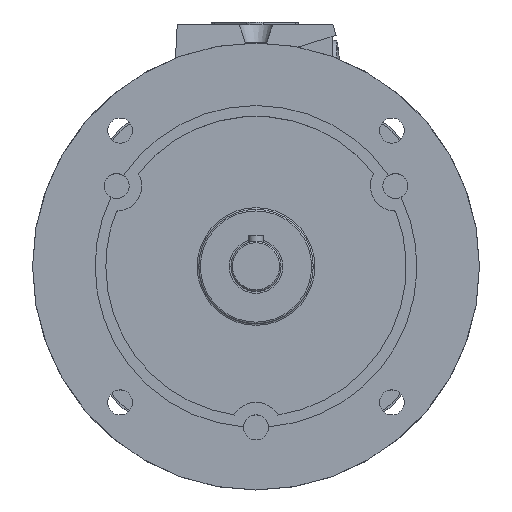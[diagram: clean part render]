
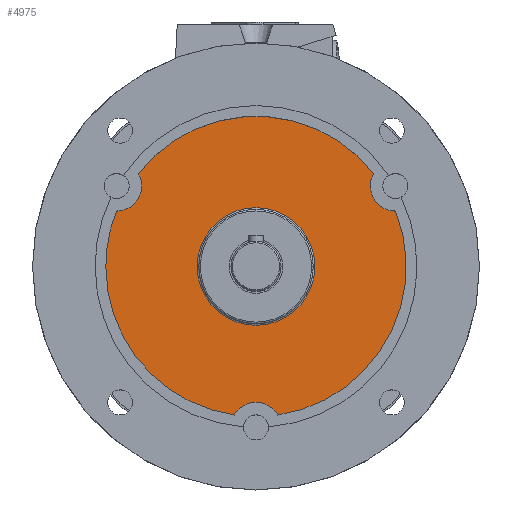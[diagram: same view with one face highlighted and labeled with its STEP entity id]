
A CAD part, top view. The second image highlights one B-rep face of the part: STEP entity #4975.
In plain terms, the highlighted planar face has unit normal (0, 0, 1).
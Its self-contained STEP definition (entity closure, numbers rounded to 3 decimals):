
#280 = CARTESIAN_POINT ( 'NONE',  ( -84., 0., 28. ) ) ;
#460 = EDGE_LOOP ( 'NONE', ( #1964, #12029, #8945, #7275, #4760, #16843, #5315, #2793 ) ) ;
#508 = DIRECTION ( 'NONE',  ( 0., 0., -1. ) ) ;
#841 = DIRECTION ( 'NONE',  ( 1., 0., 0. ) ) ;
#1267 = CIRCLE ( 'NONE', #10083, 84. ) ;
#1543 = DIRECTION ( 'NONE',  ( 0., 0., -1. ) ) ;
#1653 = DIRECTION ( 'NONE',  ( 0., 0., -1. ) ) ;
#1844 = ORIENTED_EDGE ( 'NONE', *, *, #6137, .T. ) ;
#1895 = CIRCLE ( 'NONE', #11803, 14. ) ;
#1964 = ORIENTED_EDGE ( 'NONE', *, *, #5064, .T. ) ;
#2139 = CARTESIAN_POINT ( 'NONE',  ( 0., 0., 28. ) ) ;
#2152 = CIRCLE ( 'NONE', #13998, 32.9 ) ;
#2254 = CARTESIAN_POINT ( 'NONE',  ( 0., 0., 28. ) ) ;
#2415 = EDGE_CURVE ( 'NONE', #3518, #8804, #1267, .T. ) ;
#2750 = DIRECTION ( 'NONE',  ( -1., 0., 0. ) ) ;
#2793 = ORIENTED_EDGE ( 'NONE', *, *, #15297, .F. ) ;
#3072 = EDGE_CURVE ( 'NONE', #5960, #8085, #3177, .T. ) ;
#3132 = EDGE_CURVE ( 'NONE', #11228, #13751, #6762, .T. ) ;
#3177 = CIRCLE ( 'NONE', #11172, 14. ) ;
#3518 = VERTEX_POINT ( 'NONE', #8321 ) ;
#3630 = DIRECTION ( 'NONE',  ( 0., 0., -1. ) ) ;
#4066 = CARTESIAN_POINT ( 'NONE',  ( -77.942, 45., 28. ) ) ;
#4094 = CARTESIAN_POINT ( 'NONE',  ( 0., 0., 28. ) ) ;
#4276 = CARTESIAN_POINT ( 'NONE',  ( 78.07, 31.001, 28. ) ) ;
#4522 = EDGE_CURVE ( 'NONE', #8747, #4529, #7876, .T. ) ;
#4529 = VERTEX_POINT ( 'NONE', #8488 ) ;
#4760 = ORIENTED_EDGE ( 'NONE', *, *, #12784, .F. ) ;
#4804 = CARTESIAN_POINT ( 'NONE',  ( 0., -90., 28. ) ) ;
#4975 = ADVANCED_FACE ( 'NONE', ( #6797, #12160 ), #13625, .T. ) ;
#5064 = EDGE_CURVE ( 'NONE', #13933, #8804, #15875, .T. ) ;
#5156 = CARTESIAN_POINT ( 'NONE',  ( 0., 0., 28. ) ) ;
#5315 = ORIENTED_EDGE ( 'NONE', *, *, #13698, .T. ) ;
#5930 = DIRECTION ( 'NONE',  ( -1., 0., 0. ) ) ;
#5943 = AXIS2_PLACEMENT_3D ( 'NONE', #4094, #8064, #8149 ) ;
#5960 = VERTEX_POINT ( 'NONE', #8639 ) ;
#6092 = DIRECTION ( 'NONE',  ( 0., 0., -1. ) ) ;
#6137 = EDGE_CURVE ( 'NONE', #4529, #8747, #2152, .T. ) ;
#6691 = CIRCLE ( 'NONE', #16342, 14. ) ;
#6762 = CIRCLE ( 'NONE', #15589, 84. ) ;
#6768 = AXIS2_PLACEMENT_3D ( 'NONE', #16128, #13548, #14915 ) ;
#6797 = FACE_OUTER_BOUND ( 'NONE', #460, .T. ) ;
#6826 = CARTESIAN_POINT ( 'NONE',  ( 12.188, -83.111, 28. ) ) ;
#7275 = ORIENTED_EDGE ( 'NONE', *, *, #3072, .T. ) ;
#7876 = CIRCLE ( 'NONE', #5943, 32.9 ) ;
#7917 = AXIS2_PLACEMENT_3D ( 'NONE', #2139, #6092, #12413 ) ;
#8064 = DIRECTION ( 'NONE',  ( 0., 0., -1. ) ) ;
#8085 = VERTEX_POINT ( 'NONE', #16107 ) ;
#8149 = DIRECTION ( 'NONE',  ( -1., 0., 0. ) ) ;
#8321 = CARTESIAN_POINT ( 'NONE',  ( -65.882, 52.111, 28. ) ) ;
#8488 = CARTESIAN_POINT ( 'NONE',  ( 32.9, 0., 28. ) ) ;
#8591 = DIRECTION ( 'NONE',  ( 0., 0., -1. ) ) ;
#8639 = CARTESIAN_POINT ( 'NONE',  ( -63.942, 45., 28. ) ) ;
#8747 = VERTEX_POINT ( 'NONE', #10197 ) ;
#8804 = VERTEX_POINT ( 'NONE', #10694 ) ;
#8945 = ORIENTED_EDGE ( 'NONE', *, *, #16159, .T. ) ;
#8967 = CARTESIAN_POINT ( 'NONE',  ( -77.942, 45., 28. ) ) ;
#9387 = DIRECTION ( 'NONE',  ( 1., 0., 0. ) ) ;
#10083 = AXIS2_PLACEMENT_3D ( 'NONE', #17039, #8591, #16948 ) ;
#10197 = CARTESIAN_POINT ( 'NONE',  ( -32.9, 0., 28. ) ) ;
#10694 = CARTESIAN_POINT ( 'NONE',  ( 65.882, 52.111, 28. ) ) ;
#10956 = CIRCLE ( 'NONE', #7917, 84. ) ;
#11172 = AXIS2_PLACEMENT_3D ( 'NONE', #8967, #16654, #14247 ) ;
#11228 = VERTEX_POINT ( 'NONE', #16067 ) ;
#11803 = AXIS2_PLACEMENT_3D ( 'NONE', #4804, #1653, #841 ) ;
#12023 = DIRECTION ( 'NONE',  ( 0., 0., -1. ) ) ;
#12029 = ORIENTED_EDGE ( 'NONE', *, *, #2415, .F. ) ;
#12160 = FACE_BOUND ( 'NONE', #14913, .T. ) ;
#12398 = AXIS2_PLACEMENT_3D ( 'NONE', #13812, #508, #5930 ) ;
#12406 = CARTESIAN_POINT ( 'NONE',  ( 0., 84., 28. ) ) ;
#12413 = DIRECTION ( 'NONE',  ( -1., 0., 0. ) ) ;
#12784 = EDGE_CURVE ( 'NONE', #13751, #8085, #10956, .T. ) ;
#13543 = ORIENTED_EDGE ( 'NONE', *, *, #4522, .T. ) ;
#13548 = DIRECTION ( 'NONE',  ( 0., 0., -1. ) ) ;
#13625 = PLANE ( 'NONE',  #14501 ) ;
#13698 = EDGE_CURVE ( 'NONE', #11228, #14594, #1895, .T. ) ;
#13751 = VERTEX_POINT ( 'NONE', #280 ) ;
#13812 = CARTESIAN_POINT ( 'NONE',  ( 0., 0., 28. ) ) ;
#13933 = VERTEX_POINT ( 'NONE', #4276 ) ;
#13998 = AXIS2_PLACEMENT_3D ( 'NONE', #2254, #3630, #15464 ) ;
#14247 = DIRECTION ( 'NONE',  ( 1., 0., 0. ) ) ;
#14501 = AXIS2_PLACEMENT_3D ( 'NONE', #12406, #14829, #9387 ) ;
#14594 = VERTEX_POINT ( 'NONE', #6826 ) ;
#14829 = DIRECTION ( 'NONE',  ( 0., 0., 1. ) ) ;
#14877 = CIRCLE ( 'NONE', #12398, 84. ) ;
#14913 = EDGE_LOOP ( 'NONE', ( #13543, #1844 ) ) ;
#14915 = DIRECTION ( 'NONE',  ( 1., 0., 0. ) ) ;
#15297 = EDGE_CURVE ( 'NONE', #13933, #14594, #14877, .T. ) ;
#15464 = DIRECTION ( 'NONE',  ( -1., 0., 0. ) ) ;
#15589 = AXIS2_PLACEMENT_3D ( 'NONE', #5156, #1543, #2750 ) ;
#15875 = CIRCLE ( 'NONE', #6768, 14. ) ;
#15995 = DIRECTION ( 'NONE',  ( 1., 0., 0. ) ) ;
#16067 = CARTESIAN_POINT ( 'NONE',  ( -12.188, -83.111, 28. ) ) ;
#16107 = CARTESIAN_POINT ( 'NONE',  ( -78.07, 31.001, 28. ) ) ;
#16128 = CARTESIAN_POINT ( 'NONE',  ( 77.942, 45., 28. ) ) ;
#16159 = EDGE_CURVE ( 'NONE', #3518, #5960, #6691, .T. ) ;
#16342 = AXIS2_PLACEMENT_3D ( 'NONE', #4066, #12023, #15995 ) ;
#16654 = DIRECTION ( 'NONE',  ( 0., 0., -1. ) ) ;
#16843 = ORIENTED_EDGE ( 'NONE', *, *, #3132, .F. ) ;
#16948 = DIRECTION ( 'NONE',  ( -1., 0., 0. ) ) ;
#17039 = CARTESIAN_POINT ( 'NONE',  ( 0., 0., 28. ) ) ;
